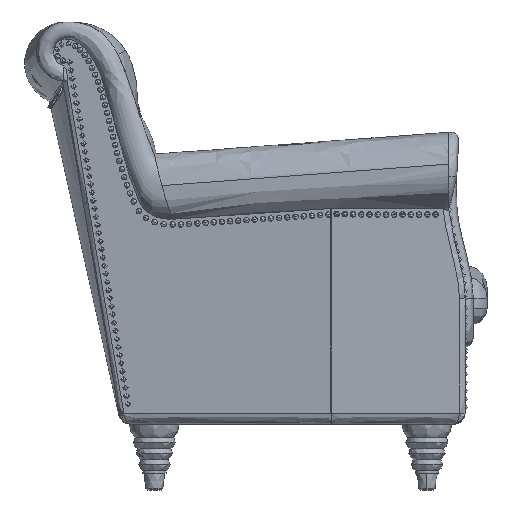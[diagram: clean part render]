
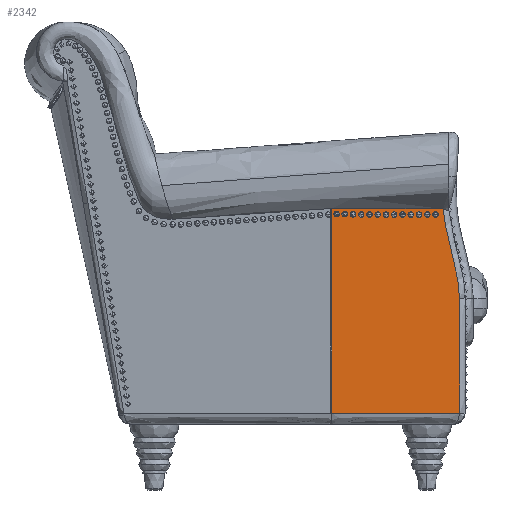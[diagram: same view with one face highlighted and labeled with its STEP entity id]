
A CAD part, left-side view. The second image highlights one B-rep face of the part: STEP entity #2342.
In plain terms, the highlighted free-form (B-spline) face has degree [1, 1] with [2, 2] control points.
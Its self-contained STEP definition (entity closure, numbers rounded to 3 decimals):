
#2342=ADVANCED_FACE('',(#4344),#27856,.T.);
#4344=FACE_OUTER_BOUND('',#6346,.T.);
#6346=EDGE_LOOP('',(#9101,#9102,#9103,#9104,#9105));
#9101=ORIENTED_EDGE('',*,*,#15700,.T.);
#9102=ORIENTED_EDGE('',*,*,#15670,.F.);
#9103=ORIENTED_EDGE('',*,*,#15701,.F.);
#9104=ORIENTED_EDGE('',*,*,#15653,.F.);
#9105=ORIENTED_EDGE('',*,*,#15652,.F.);
#15652=EDGE_CURVE('',#23474,#23473,#21849,.T.);
#15653=EDGE_CURVE('',#23473,#23475,#21850,.T.);
#15670=EDGE_CURVE('',#23484,#23482,#21865,.T.);
#15700=EDGE_CURVE('',#23474,#23482,#21888,.T.);
#15701=EDGE_CURVE('',#23475,#23484,#21889,.T.);
#21849=B_SPLINE_CURVE_WITH_KNOTS('',3,(#134293,#134294,#134295,#134296,
#134297,#134298,#134299,#134300,#134301,#134302,#134303,#134304,#134305,
#134306,#134307,#134308,#134309,#134310,#134311,#134312,#134313,#134314,
#134315,#134316),.UNSPECIFIED.,.F.,.F.,(4,2,2,2,2,2,2,2,2,2,2,4),(0.,0.063,
0.125,0.25,0.375,0.5,
0.625,0.75,0.813,0.875,
0.938,1.),.UNSPECIFIED.);
#21850=B_SPLINE_CURVE_WITH_KNOTS('',1,(#134317,#134318),.UNSPECIFIED.,.F.,
 .F.,(2,2),(0.,208.635),.UNSPECIFIED.);
#21865=B_SPLINE_CURVE_WITH_KNOTS('',1,(#134728,#134729),.UNSPECIFIED.,.F.,
 .F.,(2,2),(0.,371.797),.UNSPECIFIED.);
#21888=B_SPLINE_CURVE_WITH_KNOTS('',3,(#135376,#135377,#135378,#135379,
#135380,#135381,#135382,#135383,#135384,#135385),.UNSPECIFIED.,.F.,.F.,
(4,2,2,2,4),(-0.203,-0.152,-0.101,-0.051,
0.),.UNSPECIFIED.);
#21889=B_SPLINE_CURVE_WITH_KNOTS('',1,(#135386,#135387),.UNSPECIFIED.,.F.,
 .F.,(2,2),(0.,232.645),.UNSPECIFIED.);
#23473=VERTEX_POINT('',#124941);
#23474=VERTEX_POINT('',#124942);
#23475=VERTEX_POINT('',#124943);
#23482=VERTEX_POINT('',#124950);
#23484=VERTEX_POINT('',#124952);
#27856=B_SPLINE_SURFACE_WITH_KNOTS('',1,1,((#121555,#121556),(#121557,#121558)),
 .UNSPECIFIED.,.F.,.F.,.F.,(2,2),(2,2),(-23.266,255.911),
(16.367,462.525),.UNSPECIFIED.);
#121555=CARTESIAN_POINT('',(-342.503,305.911,102.289));
#121556=CARTESIAN_POINT('',(-342.503,305.911,548.447));
#121557=CARTESIAN_POINT('',(-342.503,26.734,102.289));
#121558=CARTESIAN_POINT('',(-342.503,26.734,548.447));
#124941=CARTESIAN_POINT('',(-342.503,50.,348.105));
#124942=CARTESIAN_POINT('',(-342.503,79.663,510.385));
#124943=CARTESIAN_POINT('',(-342.503,50.,139.47));
#124950=CARTESIAN_POINT('',(-342.503,282.645,511.267));
#124952=CARTESIAN_POINT('',(-342.503,282.645,139.47));
#134293=CARTESIAN_POINT('',(-342.503,79.663,510.385));
#134294=CARTESIAN_POINT('',(-342.503,79.432,506.943));
#134295=CARTESIAN_POINT('',(-342.503,79.094,503.507));
#134296=CARTESIAN_POINT('',(-342.503,78.263,496.669));
#134297=CARTESIAN_POINT('',(-342.503,77.77,493.263));
#134298=CARTESIAN_POINT('',(-342.503,76.117,483.075));
#134299=CARTESIAN_POINT('',(-342.503,74.786,476.321));
#134300=CARTESIAN_POINT('',(-342.503,71.888,462.855));
#134301=CARTESIAN_POINT('',(-342.503,70.318,456.143));
#134302=CARTESIAN_POINT('',(-342.503,67.092,442.746));
#134303=CARTESIAN_POINT('',(-342.503,65.433,436.058));
#134304=CARTESIAN_POINT('',(-342.503,62.15,422.674));
#134305=CARTESIAN_POINT('',(-342.503,60.525,415.979));
#134306=CARTESIAN_POINT('',(-342.503,57.436,402.549));
#134307=CARTESIAN_POINT('',(-342.503,55.972,395.818));
#134308=CARTESIAN_POINT('',(-342.503,54.025,385.69));
#134309=CARTESIAN_POINT('',(-342.503,53.418,382.307));
#134310=CARTESIAN_POINT('',(-342.503,52.315,375.527));
#134311=CARTESIAN_POINT('',(-342.503,51.819,372.129));
#134312=CARTESIAN_POINT('',(-342.503,50.978,365.311));
#134313=CARTESIAN_POINT('',(-342.503,50.632,361.891));
#134314=CARTESIAN_POINT('',(-342.503,50.143,355.023));
#134315=CARTESIAN_POINT('',(-342.503,50.,351.574));
#134316=CARTESIAN_POINT('',(-342.503,50.,348.105));
#134317=CARTESIAN_POINT('',(-342.503,50.,348.105));
#134318=CARTESIAN_POINT('',(-342.503,50.,139.47));
#134728=CARTESIAN_POINT('',(-342.503,282.645,139.47));
#134729=CARTESIAN_POINT('',(-342.503,282.645,511.267));
#135376=CARTESIAN_POINT('',(-342.503,79.663,510.385));
#135377=CARTESIAN_POINT('',(-342.503,96.578,510.206));
#135378=CARTESIAN_POINT('',(-342.503,113.494,510.073));
#135379=CARTESIAN_POINT('',(-342.503,147.325,509.917));
#135380=CARTESIAN_POINT('',(-342.503,164.241,509.894));
#135381=CARTESIAN_POINT('',(-342.503,198.073,509.99));
#135382=CARTESIAN_POINT('',(-342.503,214.989,510.108));
#135383=CARTESIAN_POINT('',(-342.503,248.82,510.529));
#135384=CARTESIAN_POINT('',(-342.503,265.734,510.833));
#135385=CARTESIAN_POINT('',(-342.503,282.645,511.267));
#135386=CARTESIAN_POINT('',(-342.503,50.,139.47));
#135387=CARTESIAN_POINT('',(-342.503,282.645,139.47));
